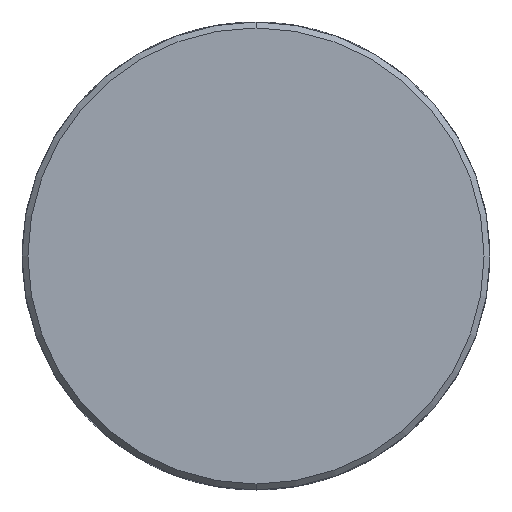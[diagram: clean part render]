
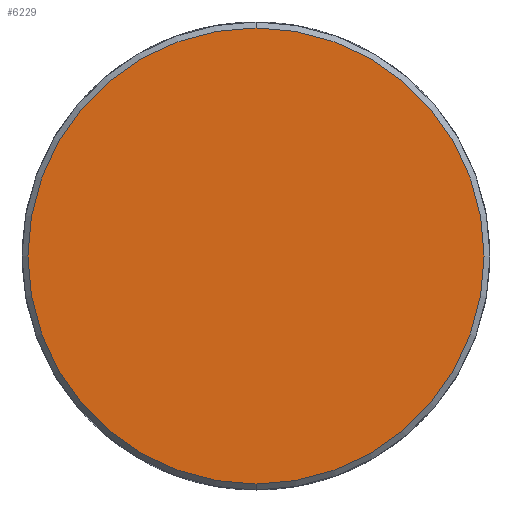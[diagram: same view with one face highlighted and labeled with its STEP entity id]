
A CAD part, front view. The second image highlights one B-rep face of the part: STEP entity #6229.
In plain terms, the highlighted planar face has unit normal (0, -1, 0).
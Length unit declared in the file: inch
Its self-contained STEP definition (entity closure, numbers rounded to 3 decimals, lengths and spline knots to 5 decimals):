
#1427 = EDGE_CURVE ( 'NONE', #1428, #1429, #3645, .T. ) ;
#1428 = VERTEX_POINT ( 'NONE', #3636 ) ;
#1429 = VERTEX_POINT ( 'NONE', #3635 ) ;
#3635 = CARTESIAN_POINT ( 'NONE',  ( 0., 0., 2.388 ) ) ;
#3636 = CARTESIAN_POINT ( 'NONE',  ( 0., 0., -2.388 ) ) ;
#3637 = DIRECTION ( 'NONE',  ( 0., 0., 1. ) ) ;
#3638 = DIRECTION ( 'NONE',  ( 0., -1., 0. ) ) ;
#3639 = CARTESIAN_POINT ( 'NONE',  ( 0., 0., 0. ) ) ;
#3640 = AXIS2_PLACEMENT_3D ( 'NONE', #3639, #3638, #3637 ) ;
#3645 = CIRCLE ( 'NONE', #3640, 2.388 ) ;
#6023 = DIRECTION ( 'NONE',  ( 0., 0., 1. ) ) ;
#6024 = DIRECTION ( 'NONE',  ( 0., 1., 0. ) ) ;
#6025 = AXIS2_PLACEMENT_3D ( 'NONE', #6027, #6024, #6023 ) ;
#6027 = CARTESIAN_POINT ( 'NONE',  ( 0., 0., 0. ) ) ;
#6028 = PLANE ( 'NONE',  #6025 ) ;
#6029 = FACE_OUTER_BOUND ( 'NONE', #6228, .T. ) ;
#6030 = DIRECTION ( 'NONE',  ( 0., 0., 1. ) ) ;
#6031 = DIRECTION ( 'NONE',  ( 0., -1., 0. ) ) ;
#6032 = CARTESIAN_POINT ( 'NONE',  ( 0., 0., 0. ) ) ;
#6033 = AXIS2_PLACEMENT_3D ( 'NONE', #6032, #6031, #6030 ) ;
#6034 = CIRCLE ( 'NONE', #6033, 2.388 ) ;
#6223 = ORIENTED_EDGE ( 'NONE', *, *, #1427, .T. ) ;
#6224 = ORIENTED_EDGE ( 'NONE', *, *, #6226, .T. ) ;
#6226 = EDGE_CURVE ( 'NONE', #1429, #1428, #6034, .T. ) ;
#6228 = EDGE_LOOP ( 'NONE', ( #6224, #6223 ) ) ;
#6229 = ADVANCED_FACE ( 'NONE', ( #6029 ), #6028, .F. ) ;
